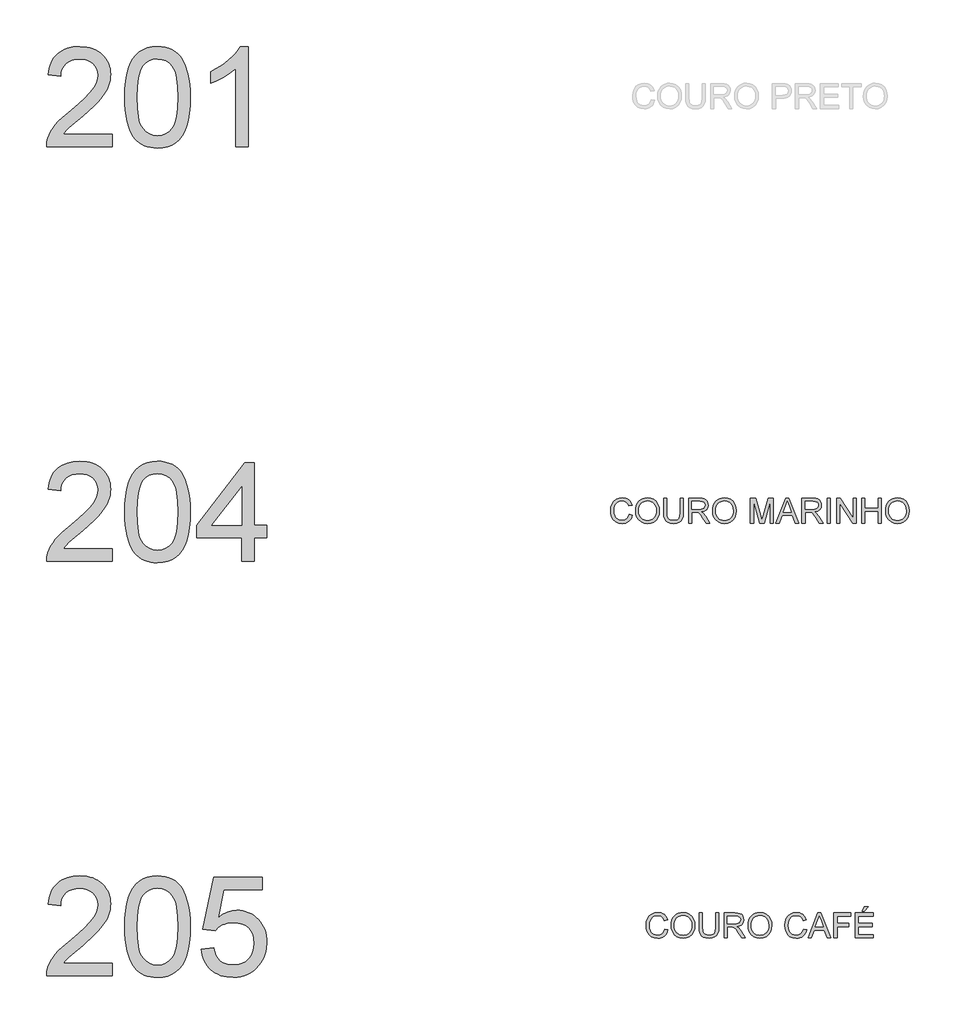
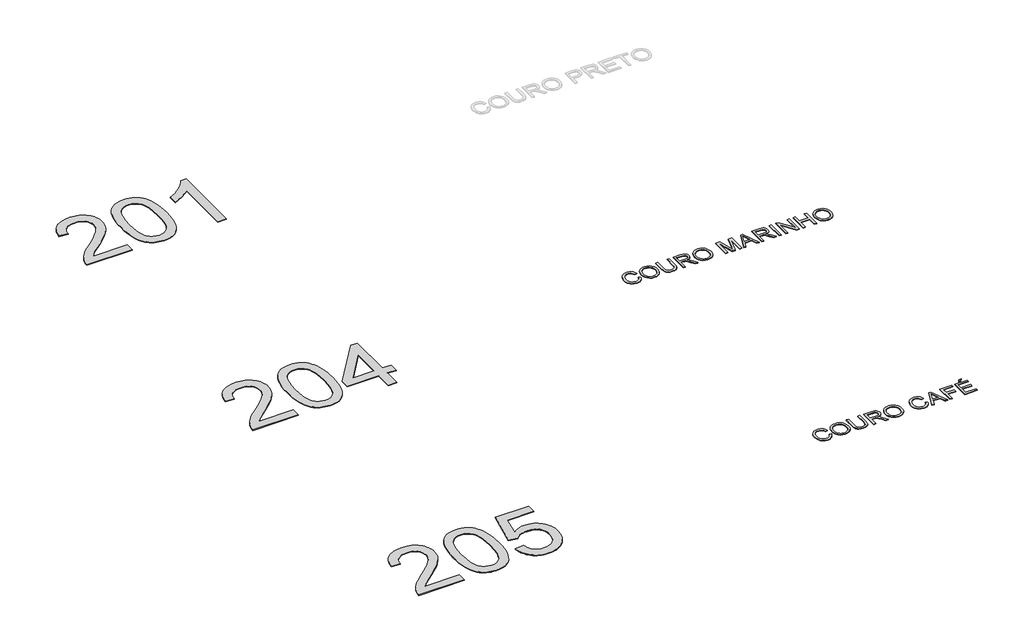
# One storey, part 3 of 39: 5 proxies.
"""IFC4 building model written with IfcOpenShell, lengths in millimetres."""

from ifc_helpers import new_model, si_unit, origin, origin_with_axes, place, context, project, spatial, polyline, outline, extrude, element, save

model = new_model("IFC4")

# Units and contexts
model_context = context("Model", 3, world=origin())
ifc_project = project(units=[si_unit("LENGTHUNIT", "METRE", prefix="MILLI")], contexts=[model_context])

# Site, building, storey
site = spatial("IfcSite", under=ifc_project)
building = spatial("IfcBuilding", under=site)
storey = spatial("IfcBuildingStorey", under=building, Name="Marelli - Linha PROFIT - Planta Baixa", Elevation=0.0)

# Proxies
placement = place(None, origin())
element("IfcBuildingElementProxy", 1, Name="1200mm Arial", ObjectType="1200mm Arial", at=placement, inside=storey, context=model_context, shape_type="SweptSolid", body=[
    extrude(outline(polyline([(-24408.8734949, -154838.133975), (-24408.8734949, -154988.8184403), (-25199.9669374, -154988.8184403), (-25196.6559994, -154935.7698566), (-25183.7801296, -154884.9285648), (-25167.3541985, -154844.029284), (-25146.6240481, -154803.7370085), (-25121.5896783, -154764.0517383), (-25092.2510892, -154724.9734733), (-25056.8424471, -154684.9755034), (-25013.5979186, -154642.5311182), (-24903.601202, -154550.303102), (-24814.169089, -154473.3605827), (-24740.9973602, -154405.8726307), (-24684.0860155, -154347.839246), (-24643.4350551, -154299.2604285), (-24614.9793827, -154255.7032003), (-24594.6539025, -154212.7345832), (-24582.4586144, -154170.3545774), (-24578.3935183, -154128.5631827), (-24582.2286881, -154089.2457945), (-24593.7341975, -154053.1105855), (-24612.9100465, -154020.1575558), (-24639.7562351, -153990.3867054), (-24672.7828412, -153965.7294146), (-24710.4999428, -153948.1170641), (-24752.9075398, -153937.5496538), (-24800.0056322, -153934.0271837), (-24849.6237163, -153937.4668803), (-24893.999482, -153947.7859703), (-24933.1329292, -153964.9844536), (-24967.024058, -153989.0623302), (-24994.4404637, -154019.2102597), (-25014.1497416, -154054.6189017), (-25026.1518917, -154095.2882563), (-25030.446914, -154141.2183234), (-25181.1313792, -154122.3827652), (-25168.1727359, -154044.5941173), (-25157.7133909, -154009.3832119), (-25144.6006971, -153976.6279187), (-25128.8346543, -153946.3282379), (-25110.4152627, -153918.4841694), (-25089.3425221, -153893.0957132), (-25065.6164327, -153870.1628693), (-25039.4945118, -153849.8143965), (-25011.2342768, -153832.1790533), (-24980.8357277, -153817.2568399), (-24948.2988645, -153805.0477562), (-24876.8101957, -153788.7689779), (-24796.7682706, -153783.3427185), (-24716.0089757, -153789.3759832), (-24678.9609595, -153796.9175641), (-24644.1340308, -153807.4757774), (-24611.5281898, -153821.050623), (-24581.1434362, -153837.642101), (-24552.9797702, -153857.2502113), (-24527.0371918, -153879.874954), (-24503.7571593, -153904.7345798), (-24483.5811311, -153931.0473395), (-24466.5091073, -153958.8132331), (-24452.5410878, -153988.0322606), (-24441.6770726, -154018.7044219), (-24433.9170618, -154050.8297172), (-24429.2610552, -154084.4081463), (-24427.7090531, -154119.4397093), (-24429.3829162, -154155.6301005), (-24434.4045054, -154191.5077921), (-24442.7738208, -154227.072784), (-24454.4908623, -154262.3250762), (-24470.098256, -154297.880871), (-24490.1386277, -154334.3563708), (-24543.5183052, -154410.0664855), (-24580.3524899, -154452.0510182), (-24628.6094106, -154500.4550917), (-24759.3914599, -154616.5218611), (-24932.7374561, -154761.4673672), (-24970.334996, -154799.6903065), (-25000.7220488, -154838.133975), (-24408.8734949, -154838.133975)])), origin_with_axes(), (0.0, 0.0, 1.0), 10.0),
    extrude(outline(polyline([(-24258.1890297, -154395.792664), (-24255.4207177, -154294.4319773), (-24247.1157816, -154202.8385576), (-24233.2742216, -154121.0124048), (-24213.8960375, -154048.953519), (-24189.0640028, -153986.073289), (-24158.860891, -153931.7831035), (-24123.2867021, -153886.0829627), (-24082.341436, -153848.9728664), (-24035.8871371, -153820.2596767), (-23983.7858495, -153799.7502555), (-23926.0375733, -153787.4446027), (-23862.6423085, -153783.3427185), (-23815.0015901, -153785.7707396), (-23769.7888929, -153793.0548031), (-23727.0042169, -153805.194909), (-23686.647562, -153822.1910572), (-23649.6938156, -153843.7581391), (-23617.1178649, -153869.6110463), (-23588.91971, -153899.7497788), (-23565.0993508, -153934.1743365), (-23544.4611709, -153972.7467637), (-23525.8095537, -154015.3291046), (-23494.4660077, -154112.5235278), (-23482.4914488, -154169.6831928), (-23473.9381924, -154235.9479371), (-23468.8062386, -154311.3177609), (-23467.0955873, -154395.792664), (-23469.8363081, -154496.5095573), (-23478.0584707, -154587.6431245), (-23491.7620751, -154669.1933658), (-23510.9471211, -154741.1602811), (-23535.5860177, -154804.0681023), (-23565.6511738, -154858.4410612), (-23601.1425893, -154904.2791578), (-23642.0602642, -154941.5823921), (-23688.5697454, -154970.4887199), (-23740.8365799, -154991.1360968), (-23798.8607676, -155003.524523), (-23862.6423085, -155007.6539984), (-23905.3166199, -155005.8605737), (-23945.6364866, -155000.4802995), (-23983.6019085, -154991.5131759), (-24019.2128856, -154978.9592028), (-24052.469418, -154962.8183803), (-24083.3715056, -154943.0907083), (-24111.9191484, -154919.7761868), (-24138.1123465, -154892.8748159), (-24166.2553191, -154850.2786794), (-24190.6458954, -154802.0999336), (-24211.2840753, -154748.3385785), (-24228.1698589, -154688.9946142), (-24241.3032461, -154624.0680406), (-24250.684237, -154553.5588577), (-24256.3128315, -154477.4670655), (-24258.1890297, -154395.792664)]), holes=[polyline([(-24107.5045645, -154395.4983584), (-24103.0899805, -154526.4919399), (-24089.8462287, -154632.5247279), (-24079.9134148, -154676.1808245), (-24067.773309, -154713.5967226), (-24053.4259112, -154744.7724225), (-24036.8712214, -154769.7079239), (-23999.4944107, -154807.884878), (-23957.9973216, -154835.1541309), (-23912.3799542, -154851.5156826), (-23862.6423085, -154856.9695332), (-23812.9046627, -154851.4972885), (-23767.2872953, -154835.0805545), (-23725.7902063, -154807.7193311), (-23688.4133956, -154769.4136183), (-23671.8587058, -154744.418336), (-23657.511308, -154713.2104465), (-23645.3712021, -154675.7899498), (-23635.4383883, -154632.1568459), (-23622.1946364, -154526.2528166), (-23617.7800525, -154395.4983584), (-23622.0474836, -154267.9720648), (-23634.8497771, -154163.8062779), (-23644.4514972, -154120.4835744), (-23656.1869328, -154083.0009976), (-23670.056084, -154051.3585475), (-23686.0589508, -154025.5562241), (-23722.8103621, -153985.5122689), (-23764.7856978, -153956.9094438), (-23811.9849578, -153939.7477487), (-23864.4081421, -153934.0271837), (-23913.8882704, -153939.067167), (-23958.7330856, -153954.187117), (-23998.9425877, -153979.3870337), (-24034.5167766, -154014.666917), (-24051.6232894, -154043.2145599), (-24066.4489338, -154077.2068562), (-24078.9937099, -154116.6438061), (-24089.2576175, -154161.5254095), (-24102.9428277, -154267.6225769), (-24107.5045645, -154395.4983584)])]), origin_with_axes(), (0.0, 0.0, 1.0), 10.0),
    extrude(outline(polyline([(-23335.2466802, -154668.6139517), (-23184.562215, -154649.7783935), (-23173.3050259, -154698.2192552), (-23156.8974889, -154740.2405761), (-23135.339604, -154775.8423562), (-23108.6313712, -154805.0245955), (-23076.8279727, -154827.7505057), (-23039.9845909, -154843.9832988), (-22998.1012257, -154853.7229746), (-22951.1778772, -154856.9695332), (-22893.788286, -154852.4537817), (-22843.1677235, -154838.9065272), (-22799.3161896, -154816.3277698), (-22762.2336845, -154784.7175093), (-22732.7479426, -154745.6392444), (-22711.6866984, -154700.6564734), (-22699.0499518, -154649.7691965), (-22694.837703, -154592.9774135), (-22698.7832374, -154539.3034304), (-22710.6198406, -154491.5891356), (-22730.3475126, -154449.8345291), (-22757.9662534, -154414.039611), (-22793.5680335, -154385.3264213), (-22837.2448233, -154364.817), (-22888.996623, -154352.5113473), (-22948.8234325, -154348.4094631), (-22987.1107511, -154350.0465379), (-23021.9215849, -154354.9577626), (-23053.2559339, -154363.143137), (-23081.1137979, -154374.6026611), (-23128.3866343, -154404.6954083), (-23165.7266568, -154442.5872538), (-23316.4111221, -154423.7516957), (-23184.562215, -153802.1782766), (-22600.6599122, -153802.1782766), (-22600.6599122, -153952.8627418), (-23062.7196982, -153952.8627418), (-23127.1726237, -154284.8394543), (-23073.9952813, -154246.7268796), (-23019.5303519, -154219.503612), (-22963.7778356, -154203.1696514), (-22906.7377322, -154197.7249978), (-22869.2988414, -154199.4126565), (-22833.3544712, -154204.4756324), (-22798.9046216, -154212.9139257), (-22765.9492927, -154224.7275363), (-22734.4884843, -154239.9164642), (-22704.5221965, -154258.4807093), (-22676.0504294, -154280.4202718), (-22649.0731828, -154305.7351516), (-22624.4825707, -154333.7033803), (-22603.1707069, -154363.6029895), (-22585.1375913, -154395.4339791), (-22570.383224, -154429.1963492), (-22558.907605, -154464.8900998), (-22550.7107343, -154502.5152308), (-22545.7926119, -154542.0717424), (-22544.1532378, -154583.5596344), (-22550.0577438, -154661.6241938), (-22557.4383763, -154698.6147284), (-22567.7712619, -154734.2440996), (-22581.0564004, -154768.5123075), (-22597.293792, -154801.4193519), (-22616.4834366, -154832.965233), (-22638.6253341, -154863.1499507), (-22668.6261108, -154897.0180869), (-22701.2388497, -154926.3704716), (-22736.4635508, -154951.2071048), (-22774.300214, -154971.5279865), (-22814.7488393, -154987.3331167), (-22857.8094269, -154998.6224954), (-22903.4819766, -155005.3961227), (-22951.7664884, -155007.6539984), (-23029.5275452, -155001.8506599), (-23065.5868785, -154994.5964869), (-23099.7654151, -154984.4406445), (-23132.063155, -154971.383133), (-23162.4800982, -154955.4239522), (-23191.0162447, -154936.5631021), (-23217.6715945, -154914.8005828), (-23242.0092878, -154890.6422321), (-23263.5924646, -154864.5938875), (-23282.421125, -154836.6555493), (-23298.4952689, -154806.8272173), (-23311.8148964, -154775.1088915), (-23322.3800074, -154741.500572), (-23335.2466802, -154668.6139517)])), origin_with_axes(), (0.0, 0.0, 1.0), 10.0),
])
element("IfcBuildingElementProxy", 2, Name="1200mm Arial", ObjectType="1200mm Arial", at=placement, inside=storey, context=model_context, shape_type="SweptSolid", body=[
    extrude(outline(polyline([(-24408.8734949, -149838.133975), (-24408.8734949, -149988.8184403), (-25199.9669374, -149988.8184403), (-25196.6559994, -149935.7698566), (-25183.7801296, -149884.9285648), (-25167.3541985, -149844.029284), (-25146.6240481, -149803.7370085), (-25121.5896783, -149764.0517383), (-25092.2510892, -149724.9734733), (-25056.8424471, -149684.9755034), (-25013.5979186, -149642.5311182), (-24903.601202, -149550.303102), (-24814.169089, -149473.3605827), (-24740.9973602, -149405.8726307), (-24684.0860155, -149347.839246), (-24643.4350551, -149299.2604285), (-24614.9793827, -149255.7032003), (-24594.6539025, -149212.7345832), (-24582.4586144, -149170.3545774), (-24578.3935183, -149128.5631827), (-24582.2286881, -149089.2457945), (-24593.7341975, -149053.1105855), (-24612.9100465, -149020.1575558), (-24639.7562351, -148990.3867054), (-24672.7828412, -148965.7294146), (-24710.4999428, -148948.1170641), (-24752.9075398, -148937.5496538), (-24800.0056322, -148934.0271837), (-24849.6237163, -148937.4668803), (-24893.999482, -148947.7859703), (-24933.1329292, -148964.9844536), (-24967.024058, -148989.0623302), (-24994.4404637, -149019.2102597), (-25014.1497416, -149054.6189017), (-25026.1518917, -149095.2882563), (-25030.446914, -149141.2183234), (-25181.1313792, -149122.3827652), (-25168.1727359, -149044.5941173), (-25157.7133909, -149009.3832119), (-25144.6006971, -148976.6279187), (-25128.8346543, -148946.3282379), (-25110.4152627, -148918.4841694), (-25089.3425221, -148893.0957132), (-25065.6164327, -148870.1628693), (-25039.4945118, -148849.8143965), (-25011.2342768, -148832.1790533), (-24980.8357277, -148817.2568399), (-24948.2988645, -148805.0477562), (-24876.8101957, -148788.7689779), (-24796.7682706, -148783.3427185), (-24716.0089757, -148789.3759832), (-24678.9609595, -148796.9175641), (-24644.1340308, -148807.4757774), (-24611.5281898, -148821.050623), (-24581.1434362, -148837.642101), (-24552.9797702, -148857.2502113), (-24527.0371918, -148879.874954), (-24503.7571593, -148904.7345798), (-24483.5811311, -148931.0473395), (-24466.5091073, -148958.8132331), (-24452.5410878, -148988.0322606), (-24441.6770726, -149018.7044219), (-24433.9170618, -149050.8297172), (-24429.2610552, -149084.4081463), (-24427.7090531, -149119.4397093), (-24429.3829162, -149155.6301005), (-24434.4045054, -149191.5077921), (-24442.7738208, -149227.072784), (-24454.4908623, -149262.3250762), (-24470.098256, -149297.880871), (-24490.1386277, -149334.3563708), (-24543.5183052, -149410.0664855), (-24580.3524899, -149452.0510182), (-24628.6094106, -149500.4550917), (-24759.3914599, -149616.5218611), (-24932.7374561, -149761.4673672), (-24970.334996, -149799.6903065), (-25000.7220488, -149838.133975), (-24408.8734949, -149838.133975)])), origin_with_axes(), (0.0, 0.0, 1.0), 10.0),
    extrude(outline(polyline([(-24258.1890297, -149395.792664), (-24255.4207177, -149294.4319773), (-24247.1157816, -149202.8385576), (-24233.2742216, -149121.0124048), (-24213.8960375, -149048.953519), (-24189.0640028, -148986.073289), (-24158.860891, -148931.7831035), (-24123.2867021, -148886.0829627), (-24082.341436, -148848.9728664), (-24035.8871371, -148820.2596767), (-23983.7858495, -148799.7502555), (-23926.0375733, -148787.4446027), (-23862.6423085, -148783.3427185), (-23815.0015901, -148785.7707396), (-23769.7888929, -148793.0548031), (-23727.0042169, -148805.194909), (-23686.647562, -148822.1910572), (-23649.6938156, -148843.7581391), (-23617.1178649, -148869.6110463), (-23588.91971, -148899.7497788), (-23565.0993508, -148934.1743365), (-23544.4611709, -148972.7467637), (-23525.8095537, -149015.3291046), (-23494.4660077, -149112.5235278), (-23482.4914488, -149169.6831928), (-23473.9381924, -149235.9479371), (-23468.8062386, -149311.3177609), (-23467.0955873, -149395.792664), (-23469.8363081, -149496.5095573), (-23478.0584707, -149587.6431245), (-23491.7620751, -149669.1933658), (-23510.9471211, -149741.1602811), (-23535.5860177, -149804.0681023), (-23565.6511738, -149858.4410612), (-23601.1425893, -149904.2791578), (-23642.0602642, -149941.5823921), (-23688.5697454, -149970.4887199), (-23740.8365799, -149991.1360968), (-23798.8607676, -150003.524523), (-23862.6423085, -150007.6539984), (-23905.3166199, -150005.8605737), (-23945.6364866, -150000.4802995), (-23983.6019085, -149991.5131759), (-24019.2128856, -149978.9592028), (-24052.469418, -149962.8183803), (-24083.3715056, -149943.0907083), (-24111.9191484, -149919.7761868), (-24138.1123465, -149892.8748159), (-24166.2553191, -149850.2786794), (-24190.6458954, -149802.0999336), (-24211.2840753, -149748.3385785), (-24228.1698589, -149688.9946142), (-24241.3032461, -149624.0680406), (-24250.684237, -149553.5588577), (-24256.3128315, -149477.4670655), (-24258.1890297, -149395.792664)]), holes=[polyline([(-24107.5045645, -149395.4983584), (-24103.0899805, -149526.4919399), (-24089.8462287, -149632.5247279), (-24079.9134148, -149676.1808245), (-24067.773309, -149713.5967226), (-24053.4259112, -149744.7724225), (-24036.8712214, -149769.7079239), (-23999.4944107, -149807.884878), (-23957.9973216, -149835.1541309), (-23912.3799542, -149851.5156826), (-23862.6423085, -149856.9695332), (-23812.9046627, -149851.4972885), (-23767.2872953, -149835.0805545), (-23725.7902063, -149807.7193311), (-23688.4133956, -149769.4136183), (-23671.8587058, -149744.418336), (-23657.511308, -149713.2104465), (-23645.3712021, -149675.7899498), (-23635.4383883, -149632.1568459), (-23622.1946364, -149526.2528166), (-23617.7800525, -149395.4983584), (-23622.0474836, -149267.9720648), (-23634.8497771, -149163.8062779), (-23644.4514972, -149120.4835744), (-23656.1869328, -149083.0009976), (-23670.056084, -149051.3585475), (-23686.0589508, -149025.5562241), (-23722.8103621, -148985.5122689), (-23764.7856978, -148956.9094438), (-23811.9849578, -148939.7477487), (-23864.4081421, -148934.0271837), (-23913.8882704, -148939.067167), (-23958.7330856, -148954.187117), (-23998.9425877, -148979.3870337), (-24034.5167766, -149014.666917), (-24051.6232894, -149043.2145599), (-24066.4489338, -149077.2068562), (-24078.9937099, -149116.6438061), (-24089.2576175, -149161.5254095), (-24102.9428277, -149267.6225769), (-24107.5045645, -149395.4983584)])]), origin_with_axes(), (0.0, 0.0, 1.0), 10.0),
    extrude(outline(polyline([(-22845.5221682, -149988.8184403), (-22845.5221682, -149706.285068), (-23391.7533547, -149706.285068), (-23391.7533547, -149555.6006027), (-22807.8510519, -148802.1782766), (-22694.837703, -148802.1782766), (-22694.837703, -149555.6006027), (-22544.1532378, -149555.6006027), (-22544.1532378, -149706.285068), (-22694.837703, -149706.285068), (-22694.837703, -149988.8184403), (-22845.5221682, -149988.8184403)]), holes=[polyline([(-22845.5221682, -149555.6006027), (-22845.5221682, -149090.0091496), (-23206.3408291, -149555.6006027), (-22845.5221682, -149555.6006027)])]), origin_with_axes(), (0.0, 0.0, 1.0), 10.0),
])
element("IfcBuildingElementProxy", 3, Name="1200mm Arial", ObjectType="1200mm Arial", at=placement, inside=storey, context=model_context, shape_type="SweptSolid", body=[
    extrude(outline(polyline([(-24408.8734949, -144838.133975), (-24408.8734949, -144988.8184403), (-25199.9669374, -144988.8184403), (-25196.6559994, -144935.7698566), (-25183.7801296, -144884.9285648), (-25167.3541985, -144844.029284), (-25146.6240481, -144803.7370085), (-25121.5896783, -144764.0517383), (-25092.2510892, -144724.9734733), (-25056.8424471, -144684.9755034), (-25013.5979186, -144642.5311182), (-24903.601202, -144550.303102), (-24814.169089, -144473.3605827), (-24740.9973602, -144405.8726307), (-24684.0860155, -144347.839246), (-24643.4350551, -144299.2604285), (-24614.9793827, -144255.7032003), (-24594.6539025, -144212.7345832), (-24582.4586144, -144170.3545774), (-24578.3935183, -144128.5631827), (-24582.2286881, -144089.2457945), (-24593.7341975, -144053.1105855), (-24612.9100465, -144020.1575558), (-24639.7562351, -143990.3867054), (-24672.7828412, -143965.7294146), (-24710.4999428, -143948.1170641), (-24752.9075398, -143937.5496538), (-24800.0056322, -143934.0271837), (-24849.6237163, -143937.4668803), (-24893.999482, -143947.7859703), (-24933.1329292, -143964.9844536), (-24967.024058, -143989.0623302), (-24994.4404637, -144019.2102597), (-25014.1497416, -144054.6189017), (-25026.1518917, -144095.2882563), (-25030.446914, -144141.2183234), (-25181.1313792, -144122.3827652), (-25168.1727359, -144044.5941173), (-25157.7133909, -144009.3832119), (-25144.6006971, -143976.6279187), (-25128.8346543, -143946.3282379), (-25110.4152627, -143918.4841694), (-25089.3425221, -143893.0957132), (-25065.6164327, -143870.1628693), (-25039.4945118, -143849.8143965), (-25011.2342768, -143832.1790533), (-24980.8357277, -143817.2568399), (-24948.2988645, -143805.0477562), (-24876.8101957, -143788.7689779), (-24796.7682706, -143783.3427185), (-24716.0089757, -143789.3759832), (-24678.9609595, -143796.9175641), (-24644.1340308, -143807.4757774), (-24611.5281898, -143821.050623), (-24581.1434362, -143837.642101), (-24552.9797702, -143857.2502113), (-24527.0371918, -143879.874954), (-24503.7571593, -143904.7345798), (-24483.5811311, -143931.0473395), (-24466.5091073, -143958.8132331), (-24452.5410878, -143988.0322606), (-24441.6770726, -144018.7044219), (-24433.9170618, -144050.8297172), (-24429.2610552, -144084.4081463), (-24427.7090531, -144119.4397093), (-24429.3829162, -144155.6301005), (-24434.4045054, -144191.5077921), (-24442.7738208, -144227.072784), (-24454.4908623, -144262.3250762), (-24470.098256, -144297.880871), (-24490.1386277, -144334.3563708), (-24543.5183052, -144410.0664855), (-24580.3524899, -144452.0510182), (-24628.6094106, -144500.4550917), (-24759.3914599, -144616.5218611), (-24932.7374561, -144761.4673672), (-24970.334996, -144799.6903065), (-25000.7220488, -144838.133975), (-24408.8734949, -144838.133975)])), origin_with_axes(), (0.0, 0.0, 1.0), 10.0),
    extrude(outline(polyline([(-24258.1890297, -144395.792664), (-24255.4207177, -144294.4319773), (-24247.1157816, -144202.8385576), (-24233.2742216, -144121.0124048), (-24213.8960375, -144048.953519), (-24189.0640028, -143986.073289), (-24158.860891, -143931.7831035), (-24123.2867021, -143886.0829627), (-24082.341436, -143848.9728664), (-24035.8871371, -143820.2596767), (-23983.7858495, -143799.7502555), (-23926.0375733, -143787.4446027), (-23862.6423085, -143783.3427185), (-23815.0015901, -143785.7707396), (-23769.7888929, -143793.0548031), (-23727.0042169, -143805.194909), (-23686.647562, -143822.1910572), (-23649.6938156, -143843.7581391), (-23617.1178649, -143869.6110463), (-23588.91971, -143899.7497788), (-23565.0993508, -143934.1743365), (-23544.4611709, -143972.7467637), (-23525.8095537, -144015.3291046), (-23494.4660077, -144112.5235278), (-23482.4914488, -144169.6831928), (-23473.9381924, -144235.9479371), (-23468.8062386, -144311.3177609), (-23467.0955873, -144395.792664), (-23469.8363081, -144496.5095573), (-23478.0584707, -144587.6431245), (-23491.7620751, -144669.1933658), (-23510.9471211, -144741.1602811), (-23535.5860177, -144804.0681023), (-23565.6511738, -144858.4410612), (-23601.1425893, -144904.2791578), (-23642.0602642, -144941.5823921), (-23688.5697454, -144970.4887199), (-23740.8365799, -144991.1360968), (-23798.8607676, -145003.524523), (-23862.6423085, -145007.6539984), (-23905.3166199, -145005.8605737), (-23945.6364866, -145000.4802995), (-23983.6019085, -144991.5131759), (-24019.2128856, -144978.9592028), (-24052.469418, -144962.8183803), (-24083.3715056, -144943.0907083), (-24111.9191484, -144919.7761868), (-24138.1123465, -144892.8748159), (-24166.2553191, -144850.2786794), (-24190.6458954, -144802.0999336), (-24211.2840753, -144748.3385785), (-24228.1698589, -144688.9946142), (-24241.3032461, -144624.0680406), (-24250.684237, -144553.5588577), (-24256.3128315, -144477.4670655), (-24258.1890297, -144395.792664)]), holes=[polyline([(-24107.5045645, -144395.4983584), (-24103.0899805, -144526.4919399), (-24089.8462287, -144632.5247279), (-24079.9134148, -144676.1808245), (-24067.773309, -144713.5967226), (-24053.4259112, -144744.7724225), (-24036.8712214, -144769.7079239), (-23999.4944107, -144807.884878), (-23957.9973216, -144835.1541309), (-23912.3799542, -144851.5156826), (-23862.6423085, -144856.9695332), (-23812.9046627, -144851.4972885), (-23767.2872953, -144835.0805545), (-23725.7902063, -144807.7193311), (-23688.4133956, -144769.4136183), (-23671.8587058, -144744.418336), (-23657.511308, -144713.2104465), (-23645.3712021, -144675.7899498), (-23635.4383883, -144632.1568459), (-23622.1946364, -144526.2528166), (-23617.7800525, -144395.4983584), (-23622.0474836, -144267.9720648), (-23634.8497771, -144163.8062779), (-23644.4514972, -144120.4835744), (-23656.1869328, -144083.0009976), (-23670.056084, -144051.3585475), (-23686.0589508, -144025.5562241), (-23722.8103621, -143985.5122689), (-23764.7856978, -143956.9094438), (-23811.9849578, -143939.7477487), (-23864.4081421, -143934.0271837), (-23913.8882704, -143939.067167), (-23958.7330856, -143954.187117), (-23998.9425877, -143979.3870337), (-24034.5167766, -144014.666917), (-24051.6232894, -144043.2145599), (-24066.4489338, -144077.2068562), (-24078.9937099, -144116.6438061), (-24089.2576175, -144161.5254095), (-24102.9428277, -144267.6225769), (-24107.5045645, -144395.4983584)])]), origin_with_axes(), (0.0, 0.0, 1.0), 10.0),
    extrude(outline(polyline([(-22770.1799356, -144988.8184403), (-22920.8644008, -144988.8184403), (-22920.8644008, -144049.3949774), (-22983.772222, -144100.2730573), (-23063.602615, -144151.0775608), (-23147.4061335, -144195.4809177), (-23222.2333313, -144227.1555575), (-23222.2333313, -144084.7116489), (-23161.0821466, -144054.0486846), (-23103.8856934, -144020.3322998), (-23050.6439717, -143983.5624943), (-23001.3569814, -143943.7392684), (-22957.4962505, -143902.7020318), (-22920.533307, -143862.2901946), (-22890.468151, -143822.5037569), (-22867.3007823, -143783.3427185), (-22770.1799356, -143783.3427185), (-22770.1799356, -144988.8184403)])), origin_with_axes(), (0.0, 0.0, 1.0), 10.0),
])
element("IfcBuildingElementProxy", 4, Name="300mm Arial", ObjectType="300mm Arial", at=placement, inside=storey, context=model_context, shape_type="SweptSolid", body=[
    extrude(outline(polyline([(-17744.701388, -154423.4390831), (-17707.0302717, -154433.1511677), (-17714.4844806, -154456.5783531), (-17724.4126959, -154477.0486868), (-17736.8149177, -154494.5621691), (-17751.6911459, -154509.1187997), (-17768.7056882, -154520.5622291), (-17787.5228522, -154528.7361071), (-17808.142638, -154533.640434), (-17830.5650456, -154535.2752096), (-17874.2602296, -154530.3271968), (-17908.9606988, -154515.4831583), (-17935.5585671, -154491.2581289), (-17954.9459482, -154458.1671434), (-17966.7825514, -154419.2636224), (-17970.7280858, -154377.6009865), (-17966.2675166, -154333.6574821), (-17952.885809, -154295.7104543), (-17931.2819389, -154264.9647166), (-17902.1548819, -154242.6250824), (-17867.6107626, -154229.0226457), (-17829.7557053, -154224.4885001), (-17788.4517542, -154230.3562179), (-17770.483018, -154237.6908652), (-17754.303108, -154247.9593714), (-17740.1787387, -154260.8904235), (-17728.3766244, -154276.2127086), (-17711.7391612, -154314.0309777), (-17749.4102775, -154323.0072984), (-17762.4700883, -154295.5357104), (-17780.3123651, -154276.6909552), (-17803.157837, -154265.7924511), (-17831.2272332, -154262.1596164), (-17863.5824547, -154266.1879242), (-17890.1619289, -154278.2728478), (-17910.3310592, -154297.1451941), (-17923.4552494, -154321.5357704), (-17930.6565395, -154349.1085259), (-17933.0569695, -154377.5274101), (-17930.2150811, -154412.3290468), (-17921.6894159, -154442.421794), (-17907.158077, -154466.6560205), (-17886.2991679, -154483.8820949), (-17861.2923893, -154494.1735937), (-17834.317442, -154497.6040933), (-17802.8727285, -154492.931992), (-17776.6703334, -154478.9156879), (-17756.8874791, -154455.702334), (-17744.701388, -154423.4390831)])), origin_with_axes(), (0.0, 0.0, 1.0), 10.0),
    extrude(outline(polyline([(-17669.3591554, -154383.8549804), (-17666.8483607, -154348.5061192), (-17659.3159769, -154317.213157), (-17646.7620038, -154289.9760937), (-17629.1864415, -154266.7949295), (-17607.6423521, -154248.2858666), (-17583.182798, -154235.0651074), (-17555.807779, -154227.1326519), (-17525.5172952, -154224.4885001), (-17485.9883749, -154229.454907), (-17450.5429446, -154244.3541278), (-17421.112385, -154268.1376988), (-17399.6280765, -154299.7571563), (-17386.4946893, -154337.68579), (-17382.1168935, -154380.3968896), (-17386.7246155, -154423.6782064), (-17400.5477815, -154462.140269), (-17422.8230363, -154493.8149087), (-17452.7870248, -154516.733957), (-17487.9289524, -154530.6398965), (-17525.7380244, -154535.2752096), (-17565.8739501, -154530.1524528), (-17601.5217154, -154514.7841825), (-17630.8786987, -154490.5591531), (-17652.142278, -154458.8661192), (-17665.054936, -154422.3998164), (-17669.3591554, -154383.8549804)]), holes=[polyline([(-17631.6880391, -154384.2228624), (-17629.8049431, -154409.1974513), (-17624.1556552, -154431.3669401), (-17614.7401754, -154450.7313286), (-17601.5585036, -154467.2906169), (-17585.5349435, -154480.5527628), (-17567.5937984, -154490.0257242), (-17547.7350685, -154495.709501), (-17525.9587536, -154497.6040933), (-17503.8099583, -154495.6911069), (-17483.7167035, -154489.9521478), (-17465.6789895, -154480.3872159), (-17449.696816, -154466.9963113), (-17436.6117133, -154450.0875351), (-17427.2652114, -154429.9689885), (-17421.6573102, -154406.6406715), (-17419.7880098, -154380.102584), (-17422.9885832, -154346.7540812), (-17432.5903033, -154317.9305269), (-17448.3448497, -154294.358488), (-17470.0039022, -154276.7645316), (-17496.1327209, -154265.8108452), (-17525.296566, -154262.1596164), (-17546.3164235, -154263.9185522), (-17565.8187678, -154269.1953595), (-17583.8035989, -154277.9900385), (-17600.2709167, -154290.302589), (-17614.0159077, -154306.7262208), (-17623.8337585, -154327.8541437), (-17629.7244689, -154353.6863575), (-17631.6880391, -154384.2228624)])]), origin_with_axes(), (0.0, 0.0, 1.0), 10.0),
    extrude(outline(polyline([(-17132.545748, -154229.1973896), (-17094.8746317, -154229.1973896), (-17094.8746317, -154403.0584205), (-17097.4314116, -154443.7737604), (-17105.1017512, -154475.1265034), (-17119.4307549, -154499.3147446), (-17141.9635271, -154518.5365788), (-17172.7552501, -154531.0905519), (-17211.8611062, -154535.2752096), (-17250.1116366, -154531.6331779), (-17280.6918275, -154520.7070826), (-17303.6108758, -154502.8740029), (-17318.8779786, -154478.5110178), (-17327.4588261, -154445.8338995), (-17330.3191086, -154403.0584205), (-17330.3191086, -154229.1973896), (-17292.6479923, -154229.1973896), (-17292.6479923, -154401.7340454), (-17290.7901882, -154435.588386), (-17285.216776, -154459.1604248), (-17275.1184152, -154475.4851883), (-17259.6857655, -154487.597703), (-17239.5626204, -154495.1024957), (-17215.3927733, -154497.6040933), (-17177.0778635, -154492.6560805), (-17162.7350642, -154486.4710644), (-17151.6020353, -154477.812042), (-17143.2649096, -154465.6351479), (-17137.3098198, -154448.8965171), (-17132.545748, -154401.7340454), (-17132.545748, -154229.1973896)])), origin_with_axes(), (0.0, 0.0, 1.0), 10.0),
    extrude(outline(polyline([(-17028.9501782, -154530.5663201), (-17028.9501782, -154229.1973896), (-16899.0878339, -154229.1973896), (-16864.1850296, -154231.2299376), (-16838.7919748, -154237.3275817), (-16820.2323282, -154248.5847708), (-16805.8297481, -154266.0959537), (-16796.586713, -154287.8101885), (-16793.5057012, -154311.6765329), (-16798.6100639, -154341.3646099), (-16813.923152, -154365.9759154), (-16825.5229311, -154376.0052983), (-16839.9048179, -154384.0205273), (-16877.0149141, -154394.0085235), (-16855.604182, -154410.1217548), (-16825.0699764, -154448.8965171), (-16774.8172959, -154530.5663201), (-16818.5952533, -154530.5663201), (-16857.811474, -154468.0999573), (-16886.1383876, -154426.750021), (-16906.0408036, -154407.2154871), (-16923.9566567, -154400.0417882), (-16945.8088472, -154398.717413), (-16991.2790618, -154398.717413), (-16991.2790618, -154530.5663201), (-17028.9501782, -154530.5663201)]), holes=[polyline([(-16991.2790618, -154361.0462967), (-16906.9605086, -154361.0462967), (-16882.7446762, -154359.7127245), (-16863.9551033, -154355.7120078), (-16849.8100406, -154348.7774322), (-16839.5277388, -154338.6422832), (-16833.2645479, -154326.3826157), (-16831.1768175, -154313.0744845), (-16835.1591401, -154294.6987789), (-16847.1061079, -154279.8915286), (-16867.6615144, -154270.1242616), (-16897.4691531, -154266.8685059), (-16991.2790618, -154266.8685059), (-16991.2790618, -154361.0462967)])]), origin_with_axes(), (0.0, 0.0, 1.0), 10.0),
    extrude(outline(polyline([(-16741.7079163, -154383.8549804), (-16739.1971217, -154348.5061192), (-16731.6647379, -154317.213157), (-16719.1107648, -154289.9760937), (-16701.5352024, -154266.7949295), (-16679.9911131, -154248.2858666), (-16655.531559, -154235.0651074), (-16628.15654, -154227.1326519), (-16597.8660562, -154224.4885001), (-16558.3371358, -154229.454907), (-16522.8917056, -154244.3541278), (-16493.461146, -154268.1376988), (-16471.9768375, -154299.7571563), (-16458.8434502, -154337.68579), (-16454.4656545, -154380.3968896), (-16459.0733765, -154423.6782064), (-16472.8965424, -154462.140269), (-16495.1717973, -154493.8149087), (-16525.1357858, -154516.733957), (-16560.2777133, -154530.6398965), (-16598.0867854, -154535.2752096), (-16638.2227111, -154530.1524528), (-16673.8704764, -154514.7841825), (-16703.2274596, -154490.5591531), (-16724.4910389, -154458.8661192), (-16737.403697, -154422.3998164), (-16741.7079163, -154383.8549804)]), holes=[polyline([(-16704.0368, -154384.2228624), (-16702.1537041, -154409.1974513), (-16696.5044162, -154431.3669401), (-16687.0889363, -154450.7313286), (-16673.9072646, -154467.2906169), (-16657.8837045, -154480.5527628), (-16639.9425594, -154490.0257242), (-16620.0838295, -154495.709501), (-16598.3075146, -154497.6040933), (-16576.1587192, -154495.6911069), (-16556.0654645, -154489.9521478), (-16538.0277504, -154480.3872159), (-16522.045577, -154466.9963113), (-16508.9604743, -154450.0875351), (-16499.6139723, -154429.9689885), (-16494.0060712, -154406.6406715), (-16492.1367708, -154380.102584), (-16495.3373442, -154346.7540812), (-16504.9390642, -154317.9305269), (-16520.6936107, -154294.358488), (-16542.3526631, -154276.7645316), (-16568.4814818, -154265.8108452), (-16597.645327, -154262.1596164), (-16618.6651845, -154263.9185522), (-16638.1675288, -154269.1953595), (-16656.1523598, -154277.9900385), (-16672.6196776, -154290.302589), (-16686.3646687, -154306.7262208), (-16696.1825194, -154327.8541437), (-16702.0732299, -154353.6863575), (-16704.0368, -154384.2228624)])]), origin_with_axes(), (0.0, 0.0, 1.0), 10.0),
    extrude(outline(polyline([(-16073.0456019, -154423.4390831), (-16035.3744856, -154433.1511677), (-16042.8286945, -154456.5783531), (-16052.7569099, -154477.0486868), (-16065.1591316, -154494.5621691), (-16080.0353598, -154509.1187997), (-16097.0499021, -154520.5622291), (-16115.8670661, -154528.7361071), (-16136.486852, -154533.640434), (-16158.9092596, -154535.2752096), (-16202.6044435, -154530.3271968), (-16237.3049127, -154515.4831583), (-16263.902781, -154491.2581289), (-16283.2901621, -154458.1671434), (-16295.1267653, -154419.2636224), (-16299.0722997, -154377.6009865), (-16294.6117305, -154333.6574821), (-16281.230023, -154295.7104543), (-16259.6261528, -154264.9647166), (-16230.4990958, -154242.6250824), (-16195.9549765, -154229.0226457), (-16158.0999192, -154224.4885001), (-16116.7959682, -154230.3562179), (-16098.827232, -154237.6908652), (-16082.647322, -154247.9593714), (-16068.5229526, -154260.8904235), (-16056.7208384, -154276.2127086), (-16040.0833751, -154314.0309777), (-16077.7544914, -154323.0072984), (-16090.8143023, -154295.5357104), (-16108.656579, -154276.6909552), (-16131.5020509, -154265.7924511), (-16159.5714472, -154262.1596164), (-16191.9266686, -154266.1879242), (-16218.5061428, -154278.2728478), (-16238.6752732, -154297.1451941), (-16251.7994633, -154321.5357704), (-16259.0007534, -154349.1085259), (-16261.4011834, -154377.5274101), (-16258.559295, -154412.3290468), (-16250.0336298, -154442.421794), (-16235.502291, -154466.6560205), (-16214.6433818, -154483.8820949), (-16189.6366032, -154494.1735937), (-16162.6616559, -154497.6040933), (-16131.2169424, -154492.931992), (-16105.0145473, -154478.9156879), (-16085.231693, -154455.702334), (-16073.0456019, -154423.4390831)])), origin_with_axes(), (0.0, 0.0, 1.0), 10.0),
    extrude(outline(polyline([(-16018.672643, -154530.5663201), (-15898.3752306, -154229.1973896), (-15866.2959206, -154229.1973896), (-15745.9985082, -154530.5663201), (-15785.8033401, -154530.5663201), (-15820.3106712, -154436.3885293), (-15944.4340564, -154436.3885293), (-15978.8678111, -154530.5663201), (-16018.672643, -154530.5663201)]), holes=[polyline([(-15930.6016934, -154398.717413), (-15834.0694578, -154398.717413), (-15861.2191491, -154324.6259792), (-15882.3355756, -154266.8685059), (-15901.0975573, -154318.1512561), (-15930.6016934, -154398.717413)])]), origin_with_axes(), (0.0, 0.0, 1.0), 10.0),
    extrude(outline(polyline([(-15705.7522179, -154530.5663201), (-15705.7522179, -154229.1973896), (-15503.2699678, -154229.1973896), (-15503.2699678, -154266.8685059), (-15668.0811016, -154266.8685059), (-15668.0811016, -154356.3374072), (-15526.8144154, -154356.3374072), (-15526.8144154, -154394.0085235), (-15668.0811016, -154394.0085235), (-15668.0811016, -154530.5663201), (-15705.7522179, -154530.5663201)])), origin_with_axes(), (0.0, 0.0, 1.0), 10.0),
    extrude(outline(polyline([(-15451.4721828, -154530.5663201), (-15451.4721828, -154229.1973896), (-15234.8632641, -154229.1973896), (-15234.8632641, -154266.8685059), (-15413.8010665, -154266.8685059), (-15413.8010665, -154356.3374072), (-15244.2810432, -154356.3374072), (-15244.2810432, -154394.0085235), (-15413.8010665, -154394.0085235), (-15413.8010665, -154492.8952038), (-15230.1543745, -154492.8952038), (-15230.1543745, -154530.5663201), (-15451.4721828, -154530.5663201)])), origin_with_axes(), (0.0, 0.0, 1.0), 10.0),
    extrude(outline(polyline([(-15366.7121711, -154210.3618315), (-15338.4588339, -154153.855157), (-15291.3699385, -154153.855157), (-15338.4588339, -154210.3618315), (-15366.7121711, -154210.3618315)])), origin_with_axes(), (0.0, 0.0, 1.0), 10.0),
])
element("IfcBuildingElementProxy", 5, Name="300mm Arial", ObjectType="300mm Arial", at=placement, inside=storey, context=model_context, shape_type="SweptSolid", body=[
    extrude(outline(polyline([(-18173.210336, -149423.4390831), (-18135.5392196, -149433.1511677), (-18142.9934286, -149456.5783531), (-18152.9216439, -149477.0486868), (-18165.3238657, -149494.5621691), (-18180.2000939, -149509.1187997), (-18197.2146361, -149520.5622291), (-18216.0318002, -149528.7361071), (-18236.651586, -149533.640434), (-18259.0739936, -149535.2752096), (-18302.7691776, -149530.3271968), (-18337.4696468, -149515.4831583), (-18364.0675151, -149491.2581289), (-18383.4548962, -149458.1671434), (-18395.2914994, -149419.2636224), (-18399.2370338, -149377.6009865), (-18394.7764646, -149333.6574821), (-18381.394757, -149295.7104543), (-18359.7908869, -149264.9647166), (-18330.6638299, -149242.6250824), (-18296.1197105, -149229.0226457), (-18258.2646532, -149224.4885001), (-18216.9607022, -149230.3562179), (-18198.991966, -149237.6908652), (-18182.812056, -149247.9593714), (-18168.6876867, -149260.8904235), (-18156.8855724, -149276.2127086), (-18140.2481092, -149314.0309777), (-18177.9192255, -149323.0072984), (-18190.9790363, -149295.5357104), (-18208.8213131, -149276.6909552), (-18231.666785, -149265.7924511), (-18259.7361812, -149262.1596164), (-18292.0914027, -149266.1879242), (-18318.6708768, -149278.2728478), (-18338.8400072, -149297.1451941), (-18351.9641974, -149321.5357704), (-18359.1654875, -149349.1085259), (-18361.5659175, -149377.5274101), (-18358.7240291, -149412.3290468), (-18350.1983638, -149442.421794), (-18335.667025, -149466.6560205), (-18314.8081159, -149483.8820949), (-18289.8013373, -149494.1735937), (-18262.82639, -149497.6040933), (-18231.3816764, -149492.931992), (-18205.1792813, -149478.9156879), (-18185.396427, -149455.702334), (-18173.210336, -149423.4390831)])), origin_with_axes(), (0.0, 0.0, 1.0), 10.0),
    extrude(outline(polyline([(-18097.8681033, -149383.8549804), (-18095.3573087, -149348.5061192), (-18087.8249249, -149317.213157), (-18075.2709518, -149289.9760937), (-18057.6953895, -149266.7949295), (-18036.1513001, -149248.2858666), (-18011.691746, -149235.0651074), (-17984.316727, -149227.1326519), (-17954.0262432, -149224.4885001), (-17914.4973228, -149229.454907), (-17879.0518926, -149244.3541278), (-17849.621333, -149268.1376988), (-17828.1370245, -149299.7571563), (-17815.0036372, -149337.68579), (-17810.6258415, -149380.3968896), (-17815.2335635, -149423.6782064), (-17829.0567295, -149462.140269), (-17851.3319843, -149493.8149087), (-17881.2959728, -149516.733957), (-17916.4379004, -149530.6398965), (-17954.2469724, -149535.2752096), (-17994.3828981, -149530.1524528), (-18030.0306634, -149514.7841825), (-18059.3876466, -149490.5591531), (-18080.651226, -149458.8661192), (-18093.563884, -149422.3998164), (-18097.8681033, -149383.8549804)]), holes=[polyline([(-18060.196987, -149384.2228624), (-18058.3138911, -149409.1974513), (-18052.6646032, -149431.3669401), (-18043.2491234, -149450.7313286), (-18030.0674516, -149467.2906169), (-18014.0438915, -149480.5527628), (-17996.1027464, -149490.0257242), (-17976.2440165, -149495.709501), (-17954.4677016, -149497.6040933), (-17932.3189062, -149495.6911069), (-17912.2256515, -149489.9521478), (-17894.1879374, -149480.3872159), (-17878.205764, -149466.9963113), (-17865.1206613, -149450.0875351), (-17855.7741594, -149429.9689885), (-17850.1662582, -149406.6406715), (-17848.2969578, -149380.102584), (-17851.4975312, -149346.7540812), (-17861.0992512, -149317.9305269), (-17876.8537977, -149294.358488), (-17898.5128502, -149276.7645316), (-17924.6416689, -149265.8108452), (-17953.805514, -149262.1596164), (-17974.8253715, -149263.9185522), (-17994.3277158, -149269.1953595), (-18012.3125468, -149277.9900385), (-18028.7798646, -149290.302589), (-18042.5248557, -149306.7262208), (-18052.3427064, -149327.8541437), (-18058.2334169, -149353.6863575), (-18060.196987, -149384.2228624)])]), origin_with_axes(), (0.0, 0.0, 1.0), 10.0),
    extrude(outline(polyline([(-17561.054696, -149229.1973896), (-17523.3835797, -149229.1973896), (-17523.3835797, -149403.0584205), (-17525.9403595, -149443.7737604), (-17533.6106991, -149475.1265034), (-17547.9397029, -149499.3147446), (-17570.4724751, -149518.5365788), (-17601.2641981, -149531.0905519), (-17640.3700541, -149535.2752096), (-17678.6205846, -149531.6331779), (-17709.2007754, -149520.7070826), (-17732.1198237, -149502.8740029), (-17747.3869265, -149478.5110178), (-17755.9677741, -149445.8338995), (-17758.8280566, -149403.0584205), (-17758.8280566, -149229.1973896), (-17721.1569403, -149229.1973896), (-17721.1569403, -149401.7340454), (-17719.2991362, -149435.588386), (-17713.725724, -149459.1604248), (-17703.6273632, -149475.4851883), (-17688.1947135, -149487.597703), (-17668.0715684, -149495.1024957), (-17643.9017213, -149497.6040933), (-17605.5868115, -149492.6560805), (-17591.2440122, -149486.4710644), (-17580.1109833, -149477.812042), (-17571.7738576, -149465.6351479), (-17565.8187678, -149448.8965171), (-17561.054696, -149401.7340454), (-17561.054696, -149229.1973896)])), origin_with_axes(), (0.0, 0.0, 1.0), 10.0),
    extrude(outline(polyline([(-17457.4591261, -149530.5663201), (-17457.4591261, -149229.1973896), (-17327.5967818, -149229.1973896), (-17292.6939775, -149231.2299376), (-17267.3009228, -149237.3275817), (-17248.7412762, -149248.5847708), (-17234.3386961, -149266.0959537), (-17225.0956609, -149287.8101885), (-17222.0146492, -149311.6765329), (-17227.1190119, -149341.3646099), (-17242.4321, -149365.9759154), (-17254.0318791, -149376.0052983), (-17268.4137659, -149384.0205273), (-17305.5238621, -149394.0085235), (-17284.11313, -149410.1217548), (-17253.5789244, -149448.8965171), (-17203.3262439, -149530.5663201), (-17247.1042013, -149530.5663201), (-17286.320422, -149468.0999573), (-17314.6473356, -149426.750021), (-17334.5497515, -149407.2154871), (-17352.4656047, -149400.0417882), (-17374.3177952, -149398.717413), (-17419.7880098, -149398.717413), (-17419.7880098, -149530.5663201), (-17457.4591261, -149530.5663201)]), holes=[polyline([(-17419.7880098, -149361.0462967), (-17335.4694565, -149361.0462967), (-17311.2536242, -149359.7127245), (-17292.4640513, -149355.7120078), (-17278.3189886, -149348.7774322), (-17268.0366868, -149338.6422832), (-17261.7734959, -149326.3826157), (-17259.6857655, -149313.0744845), (-17263.6680881, -149294.6987789), (-17275.6150559, -149279.8915286), (-17296.1704624, -149270.1242616), (-17325.9781011, -149266.8685059), (-17419.7880098, -149266.8685059), (-17419.7880098, -149361.0462967)])]), origin_with_axes(), (0.0, 0.0, 1.0), 10.0),
    extrude(outline(polyline([(-17170.2168643, -149383.8549804), (-17167.7060697, -149348.5061192), (-17160.1736858, -149317.213157), (-17147.6197127, -149289.9760937), (-17130.0441504, -149266.7949295), (-17108.5000611, -149248.2858666), (-17084.0405069, -149235.0651074), (-17056.665488, -149227.1326519), (-17026.3750042, -149224.4885001), (-16986.8460838, -149229.454907), (-16951.4006536, -149244.3541278), (-16921.970094, -149268.1376988), (-16900.4857854, -149299.7571563), (-16887.3523982, -149337.68579), (-16882.9746025, -149380.3968896), (-16887.5823245, -149423.6782064), (-16901.4054904, -149462.140269), (-16923.6807452, -149493.8149087), (-16953.6447337, -149516.733957), (-16988.7866613, -149530.6398965), (-17026.5957334, -149535.2752096), (-17066.7316591, -149530.1524528), (-17102.3794244, -149514.7841825), (-17131.7364076, -149490.5591531), (-17152.9999869, -149458.8661192), (-17165.912645, -149422.3998164), (-17170.2168643, -149383.8549804)]), holes=[polyline([(-17132.545748, -149384.2228624), (-17130.662652, -149409.1974513), (-17125.0133641, -149431.3669401), (-17115.5978843, -149450.7313286), (-17102.4162126, -149467.2906169), (-17086.3926524, -149480.5527628), (-17068.4515074, -149490.0257242), (-17048.5927774, -149495.709501), (-17026.8164626, -149497.6040933), (-17004.6676672, -149495.6911069), (-16984.5744125, -149489.9521478), (-16966.5366984, -149480.3872159), (-16950.554525, -149466.9963113), (-16937.4694223, -149450.0875351), (-16928.1229203, -149429.9689885), (-16922.5150192, -149406.6406715), (-16920.6457188, -149380.102584), (-16923.8462921, -149346.7540812), (-16933.4480122, -149317.9305269), (-16949.2025587, -149294.358488), (-16970.8616111, -149276.7645316), (-16996.9904298, -149265.8108452), (-17026.154275, -149262.1596164), (-17047.1741325, -149263.9185522), (-17066.6764768, -149269.1953595), (-17084.6613078, -149277.9900385), (-17101.1286256, -149290.302589), (-17114.8736167, -149306.7262208), (-17124.6914674, -149327.8541437), (-17130.5821778, -149353.6863575), (-17132.545748, -149384.2228624)])]), origin_with_axes(), (0.0, 0.0, 1.0), 10.0),
    extrude(outline(polyline([(-16713.4545791, -149530.5663201), (-16713.4545791, -149229.1973896), (-16648.6337715, -149229.1973896), (-16586.9767491, -149441.6124536), (-16574.5423377, -149485.9790223), (-16561.0778567, -149437.9336337), (-16500.4509039, -149229.1973896), (-16435.6300963, -149229.1973896), (-16435.6300963, -149530.5663201), (-16473.3012126, -149530.5663201), (-16473.3012126, -149266.8685059), (-16549.0113272, -149530.5663201), (-16600.0733482, -149530.5663201), (-16675.7834628, -149266.8685059), (-16675.7834628, -149530.5663201), (-16713.4545791, -149530.5663201)])), origin_with_axes(), (0.0, 0.0, 1.0), 10.0),
    extrude(outline(polyline([(-16404.8015851, -149530.5663201), (-16284.5041727, -149229.1973896), (-16252.4248627, -149229.1973896), (-16132.1274503, -149530.5663201), (-16171.9322822, -149530.5663201), (-16206.4396133, -149436.3885293), (-16330.5629985, -149436.3885293), (-16364.9967533, -149530.5663201), (-16404.8015851, -149530.5663201)]), holes=[polyline([(-16316.7306355, -149398.717413), (-16220.1984, -149398.717413), (-16247.3480912, -149324.6259792), (-16268.4645177, -149266.8685059), (-16287.2264995, -149318.1512561), (-16316.7306355, -149398.717413)])]), origin_with_axes(), (0.0, 0.0, 1.0), 10.0),
    extrude(outline(polyline([(-16091.88116, -149530.5663201), (-16091.88116, -149229.1973896), (-15962.0188157, -149229.1973896), (-15927.1160115, -149231.2299376), (-15901.7229567, -149237.3275817), (-15883.1633101, -149248.5847708), (-15868.76073, -149266.0959537), (-15859.5176948, -149287.8101885), (-15856.4366831, -149311.6765329), (-15861.5410458, -149341.3646099), (-15876.8541339, -149365.9759154), (-15888.453913, -149376.0052983), (-15902.8357998, -149384.0205273), (-15939.945896, -149394.0085235), (-15918.5351639, -149410.1217548), (-15888.0009583, -149448.8965171), (-15837.7482778, -149530.5663201), (-15881.5262352, -149530.5663201), (-15920.7424559, -149468.0999573), (-15949.0693695, -149426.750021), (-15968.9717855, -149407.2154871), (-15986.8876386, -149400.0417882), (-16008.7398291, -149398.717413), (-16054.2100437, -149398.717413), (-16054.2100437, -149530.5663201), (-16091.88116, -149530.5663201)]), holes=[polyline([(-16054.2100437, -149361.0462967), (-15969.8914904, -149361.0462967), (-15945.6756581, -149359.7127245), (-15926.8860852, -149355.7120078), (-15912.7410225, -149348.7774322), (-15902.4587207, -149338.6422832), (-15896.1955298, -149326.3826157), (-15894.1077994, -149313.0744845), (-15898.090122, -149294.6987789), (-15910.0370898, -149279.8915286), (-15930.5924963, -149270.1242616), (-15960.400135, -149266.8685059), (-16054.2100437, -149266.8685059), (-16054.2100437, -149361.0462967)])]), origin_with_axes(), (0.0, 0.0, 1.0), 10.0),
    extrude(outline(polyline([(-15785.8033401, -149530.5663201), (-15785.8033401, -149229.1973896), (-15748.1322237, -149229.1973896), (-15748.1322237, -149530.5663201), (-15785.8033401, -149530.5663201)])), origin_with_axes(), (0.0, 0.0, 1.0), 10.0),
    extrude(outline(polyline([(-15672.7899911, -149530.5663201), (-15672.7899911, -149229.1973896), (-15632.4701245, -149229.1973896), (-15475.0166305, -149467.9528045), (-15475.0166305, -149229.1973896), (-15437.3455142, -149229.1973896), (-15437.3455142, -149530.5663201), (-15477.6653809, -149530.5663201), (-15635.1188748, -149291.7373288), (-15635.1188748, -149530.5663201), (-15672.7899911, -149530.5663201)])), origin_with_axes(), (0.0, 0.0, 1.0), 10.0),
    extrude(outline(polyline([(-15371.4210607, -149530.5663201), (-15371.4210607, -149229.1973896), (-15333.7499444, -149229.1973896), (-15333.7499444, -149351.6285176), (-15173.6477001, -149351.6285176), (-15173.6477001, -149229.1973896), (-15135.9765838, -149229.1973896), (-15135.9765838, -149530.5663201), (-15173.6477001, -149530.5663201), (-15173.6477001, -149389.2996339), (-15333.7499444, -149389.2996339), (-15333.7499444, -149530.5663201), (-15371.4210607, -149530.5663201)])), origin_with_axes(), (0.0, 0.0, 1.0), 10.0),
    extrude(outline(polyline([(-15084.1787989, -149383.8549804), (-15081.6680042, -149348.5061192), (-15074.1356204, -149317.213157), (-15061.5816473, -149289.9760937), (-15044.006085, -149266.7949295), (-15022.4619956, -149248.2858666), (-14998.0024415, -149235.0651074), (-14970.6274225, -149227.1326519), (-14940.3369387, -149224.4885001), (-14900.8080184, -149229.454907), (-14865.3625881, -149244.3541278), (-14835.9320285, -149268.1376988), (-14814.44772, -149299.7571563), (-14801.3143328, -149337.68579), (-14796.936537, -149380.3968896), (-14801.544259, -149423.6782064), (-14815.367425, -149462.140269), (-14837.6426798, -149493.8149087), (-14867.6066683, -149516.733957), (-14902.7485959, -149530.6398965), (-14940.5576679, -149535.2752096), (-14980.6935936, -149530.1524528), (-15016.3413589, -149514.7841825), (-15045.6983422, -149490.5591531), (-15066.9619215, -149458.8661192), (-15079.8745795, -149422.3998164), (-15084.1787989, -149383.8549804)]), holes=[polyline([(-15046.5076825, -149384.2228624), (-15044.6245866, -149409.1974513), (-15038.9752987, -149431.3669401), (-15029.5598189, -149450.7313286), (-15016.3781471, -149467.2906169), (-15000.354587, -149480.5527628), (-14982.4134419, -149490.0257242), (-14962.554712, -149495.709501), (-14940.7783971, -149497.6040933), (-14918.6296018, -149495.6911069), (-14898.536347, -149489.9521478), (-14880.498633, -149480.3872159), (-14864.5164595, -149466.9963113), (-14851.4313568, -149450.0875351), (-14842.0848549, -149429.9689885), (-14836.4769537, -149406.6406715), (-14834.6076533, -149380.102584), (-14837.8082267, -149346.7540812), (-14847.4099468, -149317.9305269), (-14863.1644932, -149294.358488), (-14884.8235457, -149276.7645316), (-14910.9523644, -149265.8108452), (-14940.1162095, -149262.1596164), (-14961.136067, -149263.9185522), (-14980.6384113, -149269.1953595), (-14998.6232423, -149277.9900385), (-15015.0905602, -149290.302589), (-15028.8355512, -149306.7262208), (-15038.6534019, -149327.8541437), (-15044.5441124, -149353.6863575), (-15046.5076825, -149384.2228624)])]), origin_with_axes(), (0.0, 0.0, 1.0), 10.0),
])

save(model, "model.ifc")
